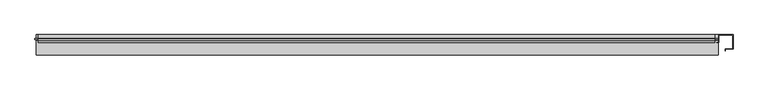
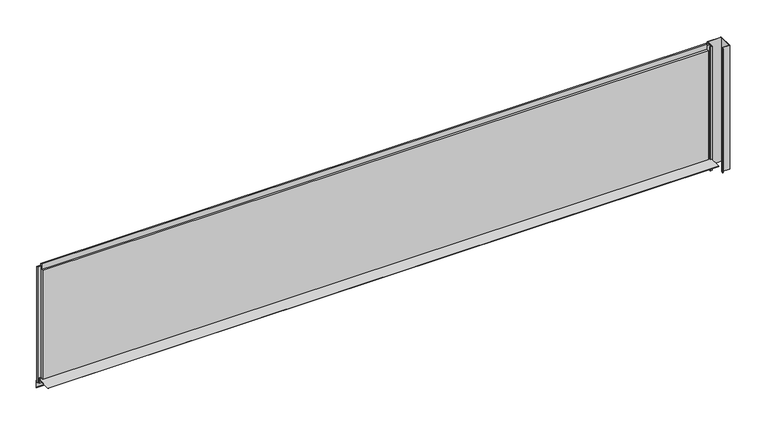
"""IFC4 building model written with IfcOpenShell, lengths in millimetres: plate geometry, Trimo_Qbiss Screen_Normal Panel-HORIZONTAL : HR - B."""

from ifc_helpers import new_model, si_unit, frame, origin, place, context, project, spatial, polyline, outline, extrude, source, transform, mapped, element, save


def plate_cf921dd1(model_context):
    return source(origin(), model_context, "Body", "SweptSolid", [
        extrude(outline(polyline([(66.7, 14.0835797), (67.5, 14.0835797), (67.5, -23.0), (100.0, -25.8433816), (100.0, -76.0), (87.1509533, -63.1509533), (87.7166388, -62.5852679), (99.2, -74.0686292), (99.2, -26.5764465), (66.7, -23.7330649), (66.7, 1.0), (-32.5, 1.0), (-32.5, 1.8), (66.7, 1.8), (66.7, 14.0835797)])), frame((-2201.25, 0.0, 0.0), z_axis=(1.0, 0.0, 0.0), x_axis=(0.0, 1.0, 0.0)), (0.0, 0.0, 1.0), 4407.5),
        extrude(outline(polyline([(-2191.75, 76.5978162), (-2191.75, 67.8978162), (-2210.75, 67.8978162), (-2210.75, 76.5978162), (-2191.75, 76.5978162)])), frame((0.0, 0.0, -20.0), z_axis=(0.0, 0.0, 1.0), x_axis=(1.0, 0.0, 0.0)), (0.0, 0.0, 1.0), 806.95),
        extrude(outline(polyline([(2187.25, 67.8978162), (2187.25, 76.5978162), (2206.25, 76.5978162), (2206.25, 67.8978162), (2187.25, 67.8978162)])), frame((0.0, 0.0, -20.0), z_axis=(0.0, 0.0, 1.0), x_axis=(1.0, 0.0, 0.0)), (0.0, 0.0, 1.0), 806.95),
        extrude(outline(polyline([(2184.25, 76.0), (2184.25, 71.0), (-2188.75, 71.0), (-2188.75, 76.0), (2184.25, 76.0)])), frame((0.0, 0.0, 765.95), z_axis=(0.0, 0.0, 1.0), x_axis=(1.0, 0.0, 0.0)), (0.0, 0.0, 1.0), 21.0),
        extrude(outline(polyline([(71.0, 764.95), (100.0, 764.95), (100.0, 0.0), (72.0, 0.0), (72.0, 15.5), (62.0, 15.5), (62.0, 7.0), (50.0, 7.0), (50.0, 764.95), (63.0, 764.95), (63.0, 802.45), (71.0, 802.45), (71.0, 764.95)])), frame((-2188.75, 0.0, 0.0), z_axis=(1.0, 0.0, 0.0), x_axis=(0.0, 1.0, 0.0)), (0.0, 0.0, 1.0), 4373.0),
        extrude(outline(polyline([(2209.25, 50.0), (2209.25, 100.0), (2301.25, 100.0), (2301.25, 8.0), (2251.25, 8.0), (2251.25, -4.5), (2250.45, -4.5), (2250.45, 8.8), (2300.45, 8.8), (2300.45, 99.2), (2210.05, 99.2), (2210.05, 49.1823429), (2196.75, 49.1823429), (2196.75, 50.0), (2209.25, 50.0)])), frame((0.0, 0.0, -76.0), z_axis=(0.0, 0.0, 1.0), x_axis=(1.0, 0.0, 0.0)), (0.0, 0.0, 1.0), 862.95),
    ])


if __name__ == "__main__":
    model = new_model("IFC4")
    model_context = context("Model", 3, world=origin())
    ifc_project = project(units=[si_unit("LENGTHUNIT", "METRE", prefix="MILLI")], contexts=[model_context])
    site = spatial("IfcSite", under=ifc_project)
    building = spatial("IfcBuilding", under=site)
    placement = place(None, origin())
    plate_shape = plate_cf921dd1(model_context)
    element("IfcPlate", 1, ObjectType="Trimo_Qbiss Screen_Normal Panel-HORIZONTAL : HR - B", at=placement, inside=building, context=model_context, shape_type="MappedRepresentation", body=[
        mapped(plate_shape, transform((0.0, 0.0, 0.0), x_axis=(1.0, 0.0, 0.0), y_axis=(0.0, 1.0, 0.0), z_axis=(0.0, 0.0, 1.0))),
    ])
    save(model, "model.ifc")
